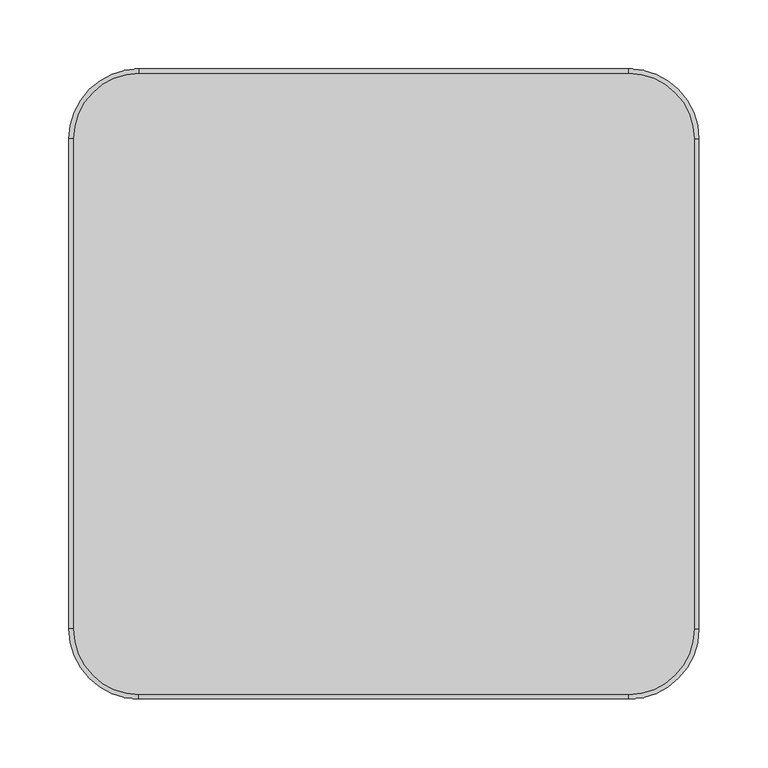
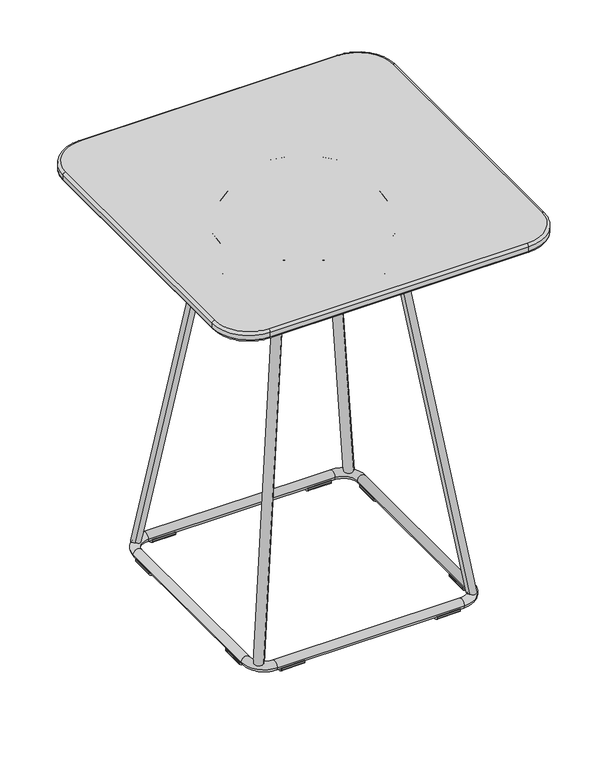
"""IFC4 building model written with IfcOpenShell, lengths in millimetres: furniture geometry, Stance_HC-Tully-Square_Table : TUTF181822-S."""

from ifc_helpers import new_model, si_unit, point, frame, frame_2d, origin, place, context, project, spatial, polyline, circle_curve, ellipse_curve, trimmed, segment, composite_curve, outline, extrude, source, transform, mapped, element, save
from ifc_brep_helpers import plane_surface, cylinder_surface, revolved_surface, extruded_surface, advanced_brep


def furniture_d069a90b(model_context):
    return source(origin(), model_context, "Body", "SolidModel", [
        advanced_brep(
        [(228.6, 177.8, 555.625), (177.8, 228.6, 555.625), (177.8, 225.425, 558.8), (225.425, 177.8, 558.8), (228.6, 177.8, 549.275), (177.8, 228.6, 549.275), (225.425, 177.8, 546.1), (177.8, 225.425, 546.1), (225.425, -177.8, 558.8), (228.6, -177.8, 555.625), (228.6, -177.8, 549.275), (225.425, -177.8, 546.1), (177.8, -225.425, 558.8), (177.8, -228.6, 555.625), (177.8, -228.6, 549.275), (177.8, -225.425, 546.1), (-177.8, -225.425, 558.8), (-177.8, -228.6, 555.625), (-177.8, -228.6, 549.275), (-177.8, -225.425, 546.1), (-225.425, -177.8, 558.8), (-228.6, -177.8, 555.625), (-228.6, -177.8, 549.275), (-225.425, -177.8, 546.1), (-225.425, 177.8, 558.8), (-228.6, 177.8, 555.625), (-228.6, 177.8, 549.275), (-225.425, 177.8, 546.1), (-177.8, 225.425, 558.8), (-177.8, 228.6, 555.625), (-177.8, 228.6, 549.275), (-177.8, 225.425, 546.1)],
        [
            (0, 1, circle_curve(frame((177.8, 177.8, 555.625), z_axis=(0.0, 0.0, 1.0), x_axis=(0.0, 1.0, 0.0)), 50.8)),
            (1, 2, circle_curve(frame((177.8, 225.425, 555.625), z_axis=(1.0, 0.0, 0.0), x_axis=(0.0, 1.0, 0.0)), 3.175)),
            (2, 3, circle_curve(frame((177.8, 177.8, 558.8), z_axis=(0.0, 0.0, -1.0), x_axis=(0.0, 1.0, 0.0)), 47.625)),
            (3, 0, circle_curve(frame((225.425, 177.8, 555.625), z_axis=(0.0, 1.0, 0.0), x_axis=(1.0, 0.0, 0.0)), 3.175)),
            (0, 4),
            (4, 5, circle_curve(frame((177.8, 177.8, 549.275), z_axis=(0.0, 0.0, 1.0), x_axis=(0.0, 1.0, 0.0)), 50.8)),
            (5, 1),
            (4, 6, circle_curve(frame((225.425, 177.8, 549.275), z_axis=(0.0, 1.0, 0.0), x_axis=(1.0, 0.0, 0.0)), 3.175)),
            (6, 7, circle_curve(frame((177.8, 177.8, 546.1), z_axis=(0.0, 0.0, 1.0), x_axis=(0.0, 1.0, 0.0)), 47.625)),
            (7, 5, circle_curve(frame((177.8, 225.425, 549.275), z_axis=(1.0, 0.0, 0.0), x_axis=(0.0, 1.0, 0.0)), 3.175)),
            (3, 8),
            (8, 9, circle_curve(frame((225.425, -177.8, 555.625), z_axis=(0.0, 1.0, 0.0), x_axis=(1.0, 0.0, 0.0)), 3.175)),
            (9, 0),
            (9, 10),
            (10, 4),
            (10, 11, circle_curve(frame((225.425, -177.8, 549.275), z_axis=(0.0, 1.0, 0.0), x_axis=(1.0, 0.0, 0.0)), 3.175)),
            (11, 6),
            (8, 12, circle_curve(frame((177.8, -177.8, 558.8), z_axis=(0.0, 0.0, -1.0), x_axis=(1.0, 0.0, 0.0)), 47.625)),
            (12, 13, circle_curve(frame((177.8, -225.425, 555.625), z_axis=(1.0, 0.0, 0.0), x_axis=(0.0, -1.0, 0.0)), 3.175)),
            (13, 9, circle_curve(frame((177.8, -177.8, 555.625), z_axis=(0.0, 0.0, 1.0), x_axis=(1.0, 0.0, 0.0)), 50.8)),
            (13, 14),
            (14, 10, circle_curve(frame((177.8, -177.8, 549.275), z_axis=(0.0, 0.0, 1.0), x_axis=(1.0, 0.0, 0.0)), 50.8)),
            (14, 15, circle_curve(frame((177.8, -225.425, 549.275), z_axis=(1.0, 0.0, 0.0), x_axis=(0.0, -1.0, 0.0)), 3.175)),
            (15, 11, circle_curve(frame((177.8, -177.8, 546.1), z_axis=(0.0, 0.0, 1.0), x_axis=(1.0, 0.0, 0.0)), 47.625)),
            (12, 16),
            (16, 17, circle_curve(frame((-177.8, -225.425, 555.625), z_axis=(1.0, 0.0, 0.0), x_axis=(0.0, -1.0, 0.0)), 3.175)),
            (17, 13),
            (17, 18),
            (18, 14),
            (18, 19, circle_curve(frame((-177.8, -225.425, 549.275), z_axis=(1.0, 0.0, 0.0), x_axis=(0.0, -1.0, 0.0)), 3.175)),
            (19, 15),
            (16, 20, circle_curve(frame((-177.8, -177.8, 558.8), z_axis=(0.0, 0.0, -1.0), x_axis=(0.0, -1.0, 0.0)), 47.625)),
            (20, 21, circle_curve(frame((-225.425, -177.8, 555.625), z_axis=(0.0, -1.0, 0.0), x_axis=(-1.0, 0.0, 0.0)), 3.175)),
            (21, 17, circle_curve(frame((-177.8, -177.8, 555.625), z_axis=(0.0, 0.0, 1.0), x_axis=(0.0, -1.0, 0.0)), 50.8)),
            (21, 22),
            (22, 18, circle_curve(frame((-177.8, -177.8, 549.275), z_axis=(0.0, 0.0, 1.0), x_axis=(0.0, -1.0, 0.0)), 50.8)),
            (22, 23, circle_curve(frame((-225.425, -177.8, 549.275), z_axis=(0.0, -1.0, 0.0), x_axis=(-1.0, 0.0, 0.0)), 3.175)),
            (23, 19, circle_curve(frame((-177.8, -177.8, 546.1), z_axis=(0.0, 0.0, 1.0), x_axis=(0.0, -1.0, 0.0)), 47.625)),
            (20, 24),
            (24, 25, circle_curve(frame((-225.425, 177.8, 555.625), z_axis=(0.0, -1.0, 0.0), x_axis=(-1.0, 0.0, 0.0)), 3.175)),
            (25, 21),
            (25, 26),
            (26, 22),
            (26, 27, circle_curve(frame((-225.425, 177.8, 549.275), z_axis=(0.0, -1.0, 0.0), x_axis=(-1.0, 0.0, 0.0)), 3.175)),
            (27, 23),
            (24, 28, circle_curve(frame((-177.8, 177.8, 558.8), z_axis=(0.0, 0.0, -1.0), x_axis=(-1.0, 0.0, 0.0)), 47.625)),
            (28, 29, circle_curve(frame((-177.8, 225.425, 555.625), z_axis=(-1.0, 0.0, 0.0), x_axis=(0.0, 1.0, 0.0)), 3.175)),
            (29, 25, circle_curve(frame((-177.8, 177.8, 555.625), z_axis=(0.0, 0.0, 1.0), x_axis=(-1.0, 0.0, 0.0)), 50.8)),
            (29, 30),
            (30, 26, circle_curve(frame((-177.8, 177.8, 549.275), z_axis=(0.0, 0.0, 1.0), x_axis=(-1.0, 0.0, 0.0)), 50.8)),
            (30, 31, circle_curve(frame((-177.8, 225.425, 549.275), z_axis=(-1.0, 0.0, 0.0), x_axis=(0.0, 1.0, 0.0)), 3.175)),
            (31, 27, circle_curve(frame((-177.8, 177.8, 546.1), z_axis=(0.0, 0.0, 1.0), x_axis=(-1.0, 0.0, 0.0)), 47.625)),
            (1, 29),
            (28, 2),
            (5, 30),
            (7, 31),
        ],
        [
            revolved_surface(trimmed(ellipse_curve(frame((177.8, 225.425, 555.625), z_axis=(-1.0, 0.0, 0.0), x_axis=(0.0, 1.0, 0.0)), 3.175, 3.175), [point((177.8, 225.425, 558.8))], [point((177.8, 228.6, 555.625))], True, "CARTESIAN"), (177.8, 177.8, 558.8), (0.0, 0.0, -1.0)),
            cylinder_surface(frame((177.8, 177.8, 558.8), z_axis=(0.0, 0.0, -1.0), x_axis=(0.0, 1.0, 0.0)), 50.8),
            revolved_surface(trimmed(ellipse_curve(frame((177.8, 225.425, 549.275), z_axis=(-1.0, 0.0, 0.0), x_axis=(0.0, 1.0, 0.0)), 3.175, 3.175), [point((177.8, 228.6, 549.275))], [point((177.8, 225.425, 546.1))], True, "CARTESIAN"), (177.8, 177.8, 558.8), (0.0, 0.0, -1.0)),
            cylinder_surface(frame((225.425, 177.8, 555.625), z_axis=(0.0, 1.0, 0.0), x_axis=(1.0, 0.0, 0.0)), 3.175),
            plane_surface(frame((228.6, 177.8, 555.625), z_axis=(1.0, 0.0, 0.0), x_axis=(0.0, -1.0, 0.0))),
            cylinder_surface(frame((225.425, 177.8, 549.275), z_axis=(0.0, 1.0, 0.0), x_axis=(1.0, 0.0, 0.0)), 3.175),
            revolved_surface(trimmed(ellipse_curve(frame((225.425, -177.8, 555.625), z_axis=(0.0, 1.0, 0.0), x_axis=(1.0, 0.0, 0.0)), 3.175, 3.175), [point((225.425, -177.8, 558.8))], [point((228.6, -177.8, 555.625))], True, "CARTESIAN"), (177.8, -177.8, 558.8), (0.0, 0.0, -1.0)),
            cylinder_surface(frame((177.8, -177.8, 558.8), z_axis=(0.0, 0.0, -1.0), x_axis=(1.0, 0.0, 0.0)), 50.8),
            revolved_surface(trimmed(ellipse_curve(frame((225.425, -177.8, 549.275), z_axis=(0.0, 1.0, 0.0), x_axis=(1.0, 0.0, 0.0)), 3.175, 3.175), [point((228.6, -177.8, 549.275))], [point((225.425, -177.8, 546.1))], True, "CARTESIAN"), (177.8, -177.8, 558.8), (0.0, 0.0, -1.0)),
            cylinder_surface(frame((177.8, -225.425, 555.625), z_axis=(1.0, 0.0, 0.0), x_axis=(0.0, -1.0, 0.0)), 3.175),
            plane_surface(frame((177.8, -228.6, 555.625), z_axis=(0.0, -1.0, 0.0), x_axis=(-1.0, 0.0, 0.0))),
            cylinder_surface(frame((177.8, -225.425, 549.275), z_axis=(1.0, 0.0, 0.0), x_axis=(0.0, -1.0, 0.0)), 3.175),
            revolved_surface(trimmed(ellipse_curve(frame((-177.8, -225.425, 555.625), z_axis=(1.0, 0.0, 0.0), x_axis=(0.0, -1.0, 0.0)), 3.175, 3.175), [point((-177.8, -225.425, 558.8))], [point((-177.8, -228.6, 555.625))], True, "CARTESIAN"), (-177.8, -177.8, 558.8), (0.0, 0.0, -1.0)),
            cylinder_surface(frame((-177.8, -177.8, 558.8), z_axis=(0.0, 0.0, -1.0), x_axis=(0.0, -1.0, 0.0)), 50.8),
            revolved_surface(trimmed(ellipse_curve(frame((-177.8, -225.425, 549.275), z_axis=(1.0, 0.0, 0.0), x_axis=(0.0, -1.0, 0.0)), 3.175, 3.175), [point((-177.8, -228.6, 549.275))], [point((-177.8, -225.425, 546.1))], True, "CARTESIAN"), (-177.8, -177.8, 558.8), (0.0, 0.0, -1.0)),
            cylinder_surface(frame((-225.425, -177.8, 555.625), z_axis=(0.0, -1.0, 0.0), x_axis=(-1.0, 0.0, 0.0)), 3.175),
            plane_surface(frame((-228.6, -177.8, 555.625), z_axis=(-1.0, 0.0, 0.0), x_axis=(0.0, 1.0, 0.0))),
            cylinder_surface(frame((-225.425, -177.8, 549.275), z_axis=(0.0, -1.0, 0.0), x_axis=(-1.0, 0.0, 0.0)), 3.175),
            revolved_surface(trimmed(ellipse_curve(frame((-225.425, 177.8, 555.625), z_axis=(0.0, -1.0, 0.0), x_axis=(-1.0, 0.0, 0.0)), 3.175, 3.175), [point((-225.425, 177.8, 558.8))], [point((-228.6, 177.8, 555.625))], True, "CARTESIAN"), (-177.8, 177.8, 558.8), (0.0, 0.0, -1.0)),
            cylinder_surface(frame((-177.8, 177.8, 558.8), z_axis=(0.0, 0.0, -1.0), x_axis=(-1.0, 0.0, 0.0)), 50.8),
            revolved_surface(trimmed(ellipse_curve(frame((-225.425, 177.8, 549.275), z_axis=(0.0, -1.0, 0.0), x_axis=(-1.0, 0.0, 0.0)), 3.175, 3.175), [point((-228.6, 177.8, 549.275))], [point((-225.425, 177.8, 546.1))], True, "CARTESIAN"), (-177.8, 177.8, 558.8), (0.0, 0.0, -1.0)),
            cylinder_surface(frame((-177.8, 225.425, 555.625), z_axis=(-1.0, 0.0, 0.0), x_axis=(0.0, 1.0, 0.0)), 3.175),
            plane_surface(frame((-177.8, 228.6, 555.625), z_axis=(0.0, 1.0, 0.0), x_axis=(1.0, 0.0, 0.0))),
            cylinder_surface(frame((-177.8, 225.425, 549.275), z_axis=(-1.0, 0.0, 0.0), x_axis=(0.0, 1.0, 0.0)), 3.175),
            plane_surface(frame((-177.8, 225.425, 546.1), z_axis=(0.0, 0.0, -1.0), x_axis=(1.0, 0.0, 0.0))),
            plane_surface(frame((-177.8, 223.913714, 558.8), z_axis=(0.0, 0.0, 1.0), x_axis=(1.0, 0.0, 0.0))),
        ],
        [
            (0, [[1, 2, 3, 4]]),
            (1, [[-1, 5, 6, 7]]),
            (2, [[-6, 8, 9, 10]]),
            (3, [[-4, 11, 12, 13]]),
            (4, [[-5, -13, 14, 15]]),
            (5, [[-8, -15, 16, 17]]),
            (6, [[-12, 18, 19, 20]]),
            (7, [[-14, -20, 21, 22]]),
            (8, [[-16, -22, 23, 24]]),
            (9, [[-19, 25, 26, 27]]),
            (10, [[-21, -27, 28, 29]]),
            (11, [[-23, -29, 30, 31]]),
            (12, [[-26, 32, 33, 34]]),
            (13, [[-28, -34, 35, 36]]),
            (14, [[-30, -36, 37, 38]]),
            (15, [[-33, 39, 40, 41]]),
            (16, [[-35, -41, 42, 43]]),
            (17, [[-37, -43, 44, 45]]),
            (18, [[-40, 46, 47, 48]]),
            (19, [[-42, -48, 49, 50]]),
            (20, [[-44, -50, 51, 52]]),
            (21, [[-2, 53, -47, 54]]),
            (22, [[-7, 55, -49, -53]]),
            (23, [[-10, 56, -51, -55]]),
            (24, [[-9, -17, -24, -31, -38, -45, -52, -56]]),
            (25, [[-3, -54, -46, -39, -32, -25, -18, -11]]),
        ],
    ),
        advanced_brep(
        [(-165.1, 0.0, 533.4), (165.1, 0.0, 533.4), (0.0, 0.0, 533.4), (-166.6753627, 0.0, 534.9753627), (166.6753627, 0.0, 534.9753627), (-166.6753627, 0.0, 546.1), (166.6753627, 0.0, 546.1), (0.0, 0.0, 546.1)],
        [
            (0, 1, circle_curve(frame((0.0, 0.0, 533.4), z_axis=(0.0, 0.0, -1.0), x_axis=(1.0, 0.0, 0.0)), 165.1)),
            (1, 2),
            (2, 0),
            (1, 0, circle_curve(frame((0.0, 0.0, 533.4), z_axis=(0.0, 0.0, -1.0), x_axis=(1.0, 0.0, 0.0)), 165.1)),
            (3, 4, circle_curve(frame((0.0, 0.0, 534.9753627), z_axis=(0.0, 0.0, -1.0), x_axis=(1.0, 0.0, 0.0)), 166.6753627)),
            (4, 1, circle_curve(frame((165.1, 0.0, 534.9753627), z_axis=(0.0, 1.0, 0.0), x_axis=(1.0, 0.0, 0.0)), 1.5753627)),
            (0, 3, circle_curve(frame((-165.1, 0.0, 534.9753627), z_axis=(0.0, 1.0, 0.0), x_axis=(-1.0, 0.0, 0.0)), 1.5753627)),
            (4, 3, circle_curve(frame((0.0, 0.0, 534.9753627), z_axis=(0.0, 0.0, -1.0), x_axis=(1.0, 0.0, 0.0)), 166.6753627)),
            (5, 6, circle_curve(frame((0.0, 0.0, 546.1), z_axis=(0.0, 0.0, -1.0), x_axis=(1.0, 0.0, 0.0)), 166.6753627)),
            (6, 4),
            (3, 5),
            (6, 5, circle_curve(frame((0.0, 0.0, 546.1), z_axis=(0.0, 0.0, -1.0), x_axis=(1.0, 0.0, 0.0)), 166.6753627)),
            (7, 6),
            (5, 7),
        ],
        [
            plane_surface(frame((0.0, 0.0, 533.4), z_axis=(0.0, 0.0, -1.0), x_axis=(1.0, 0.0, 0.0))),
            revolved_surface(trimmed(ellipse_curve(frame((165.1, 0.0, 534.9753627), z_axis=(0.0, -1.0, 0.0), x_axis=(1.0, 0.0, 0.0)), 1.5753627, 1.5753627), [point((165.1, 0.0, 533.4))], [point((166.6753627, 0.0, 534.9753627))], True, "CARTESIAN"), (0.0, 0.0, 564.2096052), (0.0, 0.0, 1.0)),
            cylinder_surface(frame((0.0, 0.0, 564.2096052), z_axis=(0.0, 0.0, 1.0), x_axis=(1.0, 0.0, 0.0)), 166.6753627),
            plane_surface(frame((0.0, 0.0, 546.1), z_axis=(0.0, 0.0, 1.0), x_axis=(1.0, 0.0, 0.0))),
        ],
        [
            (0, [[1, 2, 3]]),
            (0, [[4, -3, -2]]),
            (1, [[5, 6, -1, 7]]),
            (1, [[8, -7, -4, -6]]),
            (2, [[9, 10, -5, 11]]),
            (2, [[12, -11, -8, -10]]),
            (3, [[13, -9, 14]]),
            (3, [[-14, -12, -13]]),
        ],
    ),
        extrude(outline(composite_curve([segment(trimmed(circle_curve(frame_2d((-148.4350817, 5.3337234)), 0.3897203), [point((-148.7664819, 5.5387985))], [point((-148.0454207, 5.3269218))], False, "CARTESIAN"), True, "CONTINUOUS"), segment(polyline([(-148.0454207, 5.3269218), (-148.0841502, 3.1081125)]), True, "CONTINUOUS"), segment(trimmed(circle_curve(frame_2d((-149.6824444, 3.1360109)), 1.5985377), [point((-148.0841502, 3.1081125))], [point((-148.7010134, 1.8742201))], False, "CARTESIAN"), True, "CONTINUOUS"), segment(trimmed(circle_curve(frame_2d((-154.1650784, 8.8991729)), 8.8997735), [point((-148.7010134, 1.8742201))], [point((-159.6514035, 1.891591))], False, "CARTESIAN"), True, "CONTINUOUS"), segment(trimmed(circle_curve(frame_2d((-158.6952511, 3.1128668)), 1.5510454), [point((-159.6514035, 1.891591))], [point((-160.2460603, 3.0857973))], False, "CARTESIAN"), True, "CONTINUOUS"), segment(polyline([(-160.2460603, 3.0857973), (-160.2853602, 5.3372874)]), True, "CONTINUOUS"), segment(trimmed(circle_curve(frame_2d((-159.9029827, 5.3439618)), 0.3824358), [point((-160.2853602, 5.3372874))], [point((-159.5775522, 5.5448401))], False, "CARTESIAN"), True, "CONTINUOUS"), segment(trimmed(circle_curve(frame_2d((-154.1701501, 8.882664)), 6.3546098), [point((-159.5775522, 5.5448401))], [point((-148.7664819, 5.5387985))], True, "CARTESIAN"), True, "CONTINUOUS")], self_intersect=False)), frame((-123.2212496, 0.0, 0.0), z_axis=(1.0, 0.0, 0.0), x_axis=(0.0, 1.0, 0.0)), (0.0, 0.0, 1.0), 32.2202589),
        extrude(outline(composite_curve([segment(trimmed(circle_curve(frame_2d((-148.4350817, 5.3337234)), 0.3897203), [point((-148.7664819, 5.5387985))], [point((-148.0454207, 5.3269218))], False, "CARTESIAN"), True, "CONTINUOUS"), segment(polyline([(-148.0454207, 5.3269218), (-148.0841502, 3.1081125)]), True, "CONTINUOUS"), segment(trimmed(circle_curve(frame_2d((-149.6824444, 3.1360109)), 1.5985377), [point((-148.0841502, 3.1081125))], [point((-148.7010134, 1.8742201))], False, "CARTESIAN"), True, "CONTINUOUS"), segment(trimmed(circle_curve(frame_2d((-154.1650784, 8.8991729)), 8.8997735), [point((-148.7010134, 1.8742201))], [point((-159.6514035, 1.891591))], False, "CARTESIAN"), True, "CONTINUOUS"), segment(trimmed(circle_curve(frame_2d((-158.6952511, 3.1128668)), 1.5510454), [point((-159.6514035, 1.891591))], [point((-160.2460603, 3.0857973))], False, "CARTESIAN"), True, "CONTINUOUS"), segment(polyline([(-160.2460603, 3.0857973), (-160.2853602, 5.3372874)]), True, "CONTINUOUS"), segment(trimmed(circle_curve(frame_2d((-159.9029827, 5.3439618)), 0.3824358), [point((-160.2853602, 5.3372874))], [point((-159.5775522, 5.5448401))], False, "CARTESIAN"), True, "CONTINUOUS"), segment(trimmed(circle_curve(frame_2d((-154.1701501, 8.882664)), 6.3546098), [point((-159.5775522, 5.5448401))], [point((-148.7664819, 5.5387985))], True, "CARTESIAN"), True, "CONTINUOUS")], self_intersect=False)), frame((91.0531504, 0.0, 0.0), z_axis=(1.0, 0.0, 0.0), x_axis=(0.0, 1.0, 0.0)), (0.0, 0.0, 1.0), 32.2202589),
        extrude(outline(composite_curve([segment(trimmed(circle_curve(frame_2d((154.1701501, 8.882664)), 6.3546098), [point((148.7664819, 5.5387985))], [point((159.5775522, 5.5448401))], True, "CARTESIAN"), True, "CONTINUOUS"), segment(trimmed(circle_curve(frame_2d((159.9029827, 5.3439618)), 0.3824358), [point((159.5775522, 5.5448401))], [point((160.2853602, 5.3372874))], False, "CARTESIAN"), True, "CONTINUOUS"), segment(polyline([(160.2853602, 5.3372874), (160.2460603, 3.0857973)]), True, "CONTINUOUS"), segment(trimmed(circle_curve(frame_2d((158.6952511, 3.1128668)), 1.5510454), [point((160.2460603, 3.0857973))], [point((159.6514035, 1.891591))], False, "CARTESIAN"), True, "CONTINUOUS"), segment(trimmed(circle_curve(frame_2d((154.1650784, 8.8991729)), 8.8997735), [point((159.6514035, 1.891591))], [point((148.7010134, 1.8742201))], False, "CARTESIAN"), True, "CONTINUOUS"), segment(trimmed(circle_curve(frame_2d((149.6824444, 3.1360109)), 1.5985377), [point((148.7010134, 1.8742201))], [point((148.0841502, 3.1081125))], False, "CARTESIAN"), True, "CONTINUOUS"), segment(polyline([(148.0841502, 3.1081125), (148.0454207, 5.3269218)]), True, "CONTINUOUS"), segment(trimmed(circle_curve(frame_2d((148.4350817, 5.3337234)), 0.3897203), [point((148.0454207, 5.3269218))], [point((148.7664819, 5.5387985))], False, "CARTESIAN"), True, "CONTINUOUS")], self_intersect=False)), frame((-123.2212496, 0.0, 0.0), z_axis=(1.0, 0.0, 0.0), x_axis=(0.0, 1.0, 0.0)), (0.0, 0.0, 1.0), 32.2202589),
        extrude(outline(composite_curve([segment(trimmed(circle_curve(frame_2d((154.1701501, 8.882664)), 6.3546098), [point((148.7664819, 5.5387985))], [point((159.5775522, 5.5448401))], True, "CARTESIAN"), True, "CONTINUOUS"), segment(trimmed(circle_curve(frame_2d((159.9029827, 5.3439618)), 0.3824358), [point((159.5775522, 5.5448401))], [point((160.2853602, 5.3372874))], False, "CARTESIAN"), True, "CONTINUOUS"), segment(polyline([(160.2853602, 5.3372874), (160.2460603, 3.0857973)]), True, "CONTINUOUS"), segment(trimmed(circle_curve(frame_2d((158.6952511, 3.1128668)), 1.5510454), [point((160.2460603, 3.0857973))], [point((159.6514035, 1.891591))], False, "CARTESIAN"), True, "CONTINUOUS"), segment(trimmed(circle_curve(frame_2d((154.1650784, 8.8991729)), 8.8997735), [point((159.6514035, 1.891591))], [point((148.7010134, 1.8742201))], False, "CARTESIAN"), True, "CONTINUOUS"), segment(trimmed(circle_curve(frame_2d((149.6824444, 3.1360109)), 1.5985377), [point((148.7010134, 1.8742201))], [point((148.0841502, 3.1081125))], False, "CARTESIAN"), True, "CONTINUOUS"), segment(polyline([(148.0841502, 3.1081125), (148.0454207, 5.3269218)]), True, "CONTINUOUS"), segment(trimmed(circle_curve(frame_2d((148.4350817, 5.3337234)), 0.3897203), [point((148.0454207, 5.3269218))], [point((148.7664819, 5.5387985))], False, "CARTESIAN"), True, "CONTINUOUS")], self_intersect=False)), frame((91.0531504, 0.0, 0.0), z_axis=(1.0, 0.0, 0.0), x_axis=(0.0, 1.0, 0.0)), (0.0, 0.0, 1.0), 32.2202589),
        advanced_brep(
        [(81.5399756, 72.5694431, 523.8961578), (72.5597195, 81.5496992, 523.8961578), (151.0077383, 142.0372058, 13.6617424), (142.0274822, 151.0174619, 13.6617424)],
        [
            (0, 1, ellipse_curve(frame((77.0498475, 77.0595711, 523.8961578), z_axis=(0.0, 0.0, 1.0000000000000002), x_axis=(-0.7071067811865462, 0.7071067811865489, 0.0)), 6.35, 6.1981026)),
            (1, 0, ellipse_curve(frame((77.0498475, 77.0595711, 523.8961578), z_axis=(0.0, 0.0, 1.0000000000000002), x_axis=(-0.7071067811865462, 0.7071067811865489, 0.0)), 6.35, 6.1981026)),
            (2, 3, ellipse_curve(frame((146.5176102, 146.5273338, 13.6617424), z_axis=(0.0, 0.0, -1.0000000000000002), x_axis=(-0.7071067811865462, 0.7071067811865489, 0.0)), 6.35, 6.1981026)),
            (3, 2, ellipse_curve(frame((146.5176102, 146.5273338, 13.6617424), z_axis=(0.0, 0.0, -1.0000000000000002), x_axis=(-0.7071067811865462, 0.7071067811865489, 0.0)), 6.35, 6.1981026)),
            (3, 1),
            (0, 2),
        ],
        [
            plane_surface(frame((77.0498475, 77.0595711, 523.8961578), z_axis=(0.0, 0.0, 1.0), x_axis=(0.7071067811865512, 0.7071067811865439, 0.0))),
            plane_surface(frame((146.5176102, 146.5273338, 13.6617424), z_axis=(0.0, 0.0, -1.0), x_axis=(0.7071067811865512, 0.7071067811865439, 0.0))),
            extruded_surface(trimmed(ellipse_curve(frame((146.5176102, 146.5273338, 13.6617424), z_axis=(0.0, 0.0, 1.0000000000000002), x_axis=(-0.7071067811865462, 0.7071067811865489, 0.0)), 6.35, 6.1981026), [point((151.0077383, 142.0372058, 13.6617424))], [point((142.0274822, 151.0174619, 13.6617424))], True, "CARTESIAN"), (-69.46776270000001, -69.46776270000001, 510.2344154), 519.6062920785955),
            extruded_surface(trimmed(ellipse_curve(frame((146.5176102, 146.5273338, 13.6617424), z_axis=(0.0, 0.0, 1.0000000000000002), x_axis=(-0.7071067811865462, 0.7071067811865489, 0.0)), 6.35, 6.1981026), [point((142.0274822, 151.0174619, 13.6617424))], [point((151.0077383, 142.0372058, 13.6617424))], True, "CARTESIAN"), (-69.46776270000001, -69.46776270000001, 510.2344154), 519.6062920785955),
        ],
        [
            (0, [[1, 2]]),
            (1, [[3, 4]]),
            (2, [[-4, 5, -1, 6]]),
            (3, [[-3, -6, -2, -5]]),
        ],
    ),
        advanced_brep(
        [(-81.5399756, 72.5694431, 523.8961578), (-72.5597195, 81.5496992, 523.8961578), (-151.0077383, 142.0372058, 13.6617424), (-142.0274822, 151.0174619, 13.6617424)],
        [
            (0, 1, ellipse_curve(frame((-77.0498475, 77.0595711, 523.8961578), z_axis=(0.0, 0.0, 1.0000000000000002), x_axis=(0.7071067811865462, 0.7071067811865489, 0.0)), 6.35, 6.1981026)),
            (1, 0, ellipse_curve(frame((-77.0498475, 77.0595711, 523.8961578), z_axis=(0.0, 0.0, 1.0000000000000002), x_axis=(0.7071067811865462, 0.7071067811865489, 0.0)), 6.35, 6.1981026)),
            (2, 3, ellipse_curve(frame((-146.5176102, 146.5273338, 13.6617424), z_axis=(0.0, 0.0, -1.0000000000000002), x_axis=(0.7071067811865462, 0.7071067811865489, 0.0)), 6.35, 6.1981026)),
            (3, 2, ellipse_curve(frame((-146.5176102, 146.5273338, 13.6617424), z_axis=(0.0, 0.0, -1.0000000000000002), x_axis=(0.7071067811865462, 0.7071067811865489, 0.0)), 6.35, 6.1981026)),
            (2, 0),
            (1, 3),
        ],
        [
            plane_surface(frame((-77.0498475, 77.0595711, 523.8961578), z_axis=(0.0, 0.0, 1.0), x_axis=(0.7071067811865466, -0.7071067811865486, 0.0))),
            plane_surface(frame((-146.5176102, 146.5273338, 13.6617424), z_axis=(0.0, 0.0, -1.0), x_axis=(0.7071067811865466, -0.7071067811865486, 0.0))),
            extruded_surface(trimmed(ellipse_curve(frame((-146.5176102, 146.5273338, 13.6617424), z_axis=(0.0, 0.0, 1.0000000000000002), x_axis=(0.7071067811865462, 0.7071067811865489, 0.0)), 6.35, 6.1981026), [point((-142.0274822, 151.0174619, 13.6617424))], [point((-151.0077383, 142.0372058, 13.6617424))], True, "CARTESIAN"), (69.46776270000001, -69.46776270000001, 510.2344154), 519.6062920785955),
            extruded_surface(trimmed(ellipse_curve(frame((-146.5176102, 146.5273338, 13.6617424), z_axis=(0.0, 0.0, 1.0000000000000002), x_axis=(0.7071067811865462, 0.7071067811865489, 0.0)), 6.35, 6.1981026), [point((-151.0077383, 142.0372058, 13.6617424))], [point((-142.0274822, 151.0174619, 13.6617424))], True, "CARTESIAN"), (69.46776270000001, -69.46776270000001, 510.2344154), 519.6062920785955),
        ],
        [
            (0, [[1, 2]]),
            (1, [[3, 4]]),
            (2, [[-3, 5, -2, 6]]),
            (3, [[-4, -6, -1, -5]]),
        ],
    ),
        advanced_brep(
        [(81.5399756, -72.5694431, 523.8961578), (72.5597195, -81.5496992, 523.8961578), (151.0077383, -142.0372058, 13.6617424), (142.0274822, -151.0174619, 13.6617424)],
        [
            (0, 1, ellipse_curve(frame((77.0498475, -77.0595711, 523.8961578), z_axis=(0.0, 0.0, 1.0000000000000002), x_axis=(-0.7071067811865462, -0.7071067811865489, 0.0)), 6.35, 6.1981026)),
            (1, 0, ellipse_curve(frame((77.0498475, -77.0595711, 523.8961578), z_axis=(0.0, 0.0, 1.0000000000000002), x_axis=(-0.7071067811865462, -0.7071067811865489, 0.0)), 6.35, 6.1981026)),
            (2, 3, ellipse_curve(frame((146.5176102, -146.5273338, 13.6617424), z_axis=(0.0, 0.0, -1.0000000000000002), x_axis=(-0.7071067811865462, -0.7071067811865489, 0.0)), 6.35, 6.1981026)),
            (3, 2, ellipse_curve(frame((146.5176102, -146.5273338, 13.6617424), z_axis=(0.0, 0.0, -1.0000000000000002), x_axis=(-0.7071067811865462, -0.7071067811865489, 0.0)), 6.35, 6.1981026)),
            (2, 0),
            (1, 3),
        ],
        [
            plane_surface(frame((77.0498475, -77.0595711, 523.8961578), z_axis=(0.0, 0.0, 1.0), x_axis=(-0.7071067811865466, 0.7071067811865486, 0.0))),
            plane_surface(frame((146.5176102, -146.5273338, 13.6617424), z_axis=(0.0, 0.0, -1.0), x_axis=(-0.7071067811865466, 0.7071067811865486, 0.0))),
            extruded_surface(trimmed(ellipse_curve(frame((146.5176102, -146.5273338, 13.6617424), z_axis=(0.0, 0.0, 1.0000000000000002), x_axis=(-0.7071067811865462, -0.7071067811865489, 0.0)), 6.35, 6.1981026), [point((142.0274822, -151.0174619, 13.6617424))], [point((151.0077383, -142.0372058, 13.6617424))], True, "CARTESIAN"), (-69.46776270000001, 69.46776270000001, 510.2344154), 519.6062920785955),
            extruded_surface(trimmed(ellipse_curve(frame((146.5176102, -146.5273338, 13.6617424), z_axis=(0.0, 0.0, 1.0000000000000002), x_axis=(-0.7071067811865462, -0.7071067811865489, 0.0)), 6.35, 6.1981026), [point((151.0077383, -142.0372058, 13.6617424))], [point((142.0274822, -151.0174619, 13.6617424))], True, "CARTESIAN"), (-69.46776270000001, 69.46776270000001, 510.2344154), 519.6062920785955),
        ],
        [
            (0, [[1, 2]]),
            (1, [[3, 4]]),
            (2, [[-3, 5, -2, 6]]),
            (3, [[-4, -6, -1, -5]]),
        ],
    ),
        advanced_brep(
        [(-81.5399756, -72.5694431, 523.8961578), (-72.5597195, -81.5496992, 523.8961578), (-151.0077383, -142.0372058, 13.6617424), (-142.0274822, -151.0174619, 13.6617424)],
        [
            (0, 1, ellipse_curve(frame((-77.0498475, -77.0595711, 523.8961578), z_axis=(0.0, 0.0, 1.0000000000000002), x_axis=(0.7071067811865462, -0.7071067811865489, 0.0)), 6.35, 6.1981026)),
            (1, 0, ellipse_curve(frame((-77.0498475, -77.0595711, 523.8961578), z_axis=(0.0, 0.0, 1.0000000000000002), x_axis=(0.7071067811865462, -0.7071067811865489, 0.0)), 6.35, 6.1981026)),
            (2, 3, ellipse_curve(frame((-146.5176102, -146.5273338, 13.6617424), z_axis=(0.0, 0.0, -1.0000000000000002), x_axis=(0.7071067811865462, -0.7071067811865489, 0.0)), 6.35, 6.1981026)),
            (3, 2, ellipse_curve(frame((-146.5176102, -146.5273338, 13.6617424), z_axis=(0.0, 0.0, -1.0000000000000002), x_axis=(0.7071067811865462, -0.7071067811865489, 0.0)), 6.35, 6.1981026)),
            (3, 1),
            (0, 2),
        ],
        [
            plane_surface(frame((-77.0498475, -77.0595711, 523.8961578), z_axis=(0.0, 0.0, 1.0), x_axis=(-0.7071067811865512, -0.7071067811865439, 0.0))),
            plane_surface(frame((-146.5176102, -146.5273338, 13.6617424), z_axis=(0.0, 0.0, -1.0), x_axis=(-0.7071067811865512, -0.7071067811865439, 0.0))),
            extruded_surface(trimmed(ellipse_curve(frame((-146.5176102, -146.5273338, 13.6617424), z_axis=(0.0, 0.0, 1.0000000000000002), x_axis=(0.7071067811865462, -0.7071067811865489, 0.0)), 6.35, 6.1981026), [point((-151.0077383, -142.0372058, 13.6617424))], [point((-142.0274822, -151.0174619, 13.6617424))], True, "CARTESIAN"), (69.46776270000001, 69.46776270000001, 510.2344154), 519.6062920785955),
            extruded_surface(trimmed(ellipse_curve(frame((-146.5176102, -146.5273338, 13.6617424), z_axis=(0.0, 0.0, 1.0000000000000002), x_axis=(0.7071067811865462, -0.7071067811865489, 0.0)), 6.35, 6.1981026), [point((-142.0274822, -151.0174619, 13.6617424))], [point((-151.0077383, -142.0372058, 13.6617424))], True, "CARTESIAN"), (69.46776270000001, 69.46776270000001, 510.2344154), 519.6062920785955),
        ],
        [
            (0, [[1, 2]]),
            (1, [[3, 4]]),
            (2, [[-4, 5, -1, 6]]),
            (3, [[-3, -6, -2, -5]]),
        ],
    ),
        extrude(outline(composite_curve([segment(trimmed(circle_curve(frame_2d((-82.55, 0.0)), 9.525), [point((-82.55, 9.525))], [point((-82.55, -9.525))], False, "CARTESIAN"), True, "CONTINUOUS"), segment(polyline([(-82.55, -9.525), (-104.775, -9.525), (-104.775, 9.525), (-82.55, 9.525)]), True, "CONTINUOUS")], self_intersect=False)), frame((0.0, 0.0, 530.225), z_axis=(0.0, 0.0, 1.0), x_axis=(1.0, 0.0, 0.0)), (0.0, 0.0, 1.0), 3.175),
        extrude(outline(composite_curve([segment(polyline([(9.525, 104.775), (9.525, 82.55)]), True, "CONTINUOUS"), segment(trimmed(circle_curve(frame_2d((0.0, 82.55)), 9.525), [point((9.525, 82.55))], [point((-9.525, 82.55))], False, "CARTESIAN"), True, "CONTINUOUS"), segment(polyline([(-9.525, 82.55), (-9.525, 104.775), (9.525, 104.775)]), True, "CONTINUOUS")], self_intersect=False)), frame((0.0, 0.0, 530.225), z_axis=(0.0, 0.0, 1.0), x_axis=(1.0, 0.0, 0.0)), (0.0, 0.0, 1.0), 3.175),
        extrude(outline(composite_curve([segment(polyline([(104.775, 9.525), (104.775, -9.525), (82.55, -9.525)]), True, "CONTINUOUS"), segment(trimmed(circle_curve(frame_2d((82.55, 0.0)), 9.525), [point((82.55, -9.525))], [point((82.55, 9.525))], False, "CARTESIAN"), True, "CONTINUOUS"), segment(polyline([(82.55, 9.525), (104.775, 9.525)]), True, "CONTINUOUS")], self_intersect=False)), frame((0.0, 0.0, 530.225), z_axis=(0.0, 0.0, 1.0), x_axis=(1.0, 0.0, 0.0)), (0.0, 0.0, 1.0), 3.175),
        extrude(outline(composite_curve([segment(polyline([(9.525, -104.775), (-9.525, -104.775), (-9.525, -82.55)]), True, "CONTINUOUS"), segment(trimmed(circle_curve(frame_2d((0.0, -82.55)), 9.525), [point((-9.525, -82.55))], [point((9.525, -82.55))], False, "CARTESIAN"), True, "CONTINUOUS"), segment(polyline([(9.525, -82.55), (9.525, -104.775)]), True, "CONTINUOUS")], self_intersect=False)), frame((0.0, 0.0, 530.225), z_axis=(0.0, 0.0, 1.0), x_axis=(1.0, 0.0, 0.0)), (0.0, 0.0, 1.0), 3.175),
        advanced_brep(
        [(103.1973977, 0.0, 527.05), (-103.1973977, 0.0, 527.05), (-115.8973977, 0.0, 527.05), (115.8973977, 0.0, 527.05)],
        [
            (0, 1, circle_curve(frame((0.0, 0.0, 527.05), z_axis=(0.0, 0.0, -1.0), x_axis=(-1.0, 0.0, 0.0)), 103.1973977)),
            (1, 2, circle_curve(frame((-109.5473977, 0.0, 527.05), z_axis=(0.0, -1.0, 0.0), x_axis=(1.0, 0.0, 0.0)), 6.35)),
            (2, 3, circle_curve(frame((0.0, 0.0, 527.05), z_axis=(0.0, 0.0, 1.0), x_axis=(-1.0, 0.0, 0.0)), 115.8973977)),
            (3, 0, circle_curve(frame((109.5473977, 0.0, 527.05), z_axis=(0.0, -1.0, 0.0), x_axis=(-1.0, 0.0, 0.0)), 6.35)),
            (2, 1, circle_curve(frame((-109.5473977, 0.0, 527.05), z_axis=(0.0, -1.0, 0.0), x_axis=(1.0, 0.0, 0.0)), 6.35)),
            (0, 3, circle_curve(frame((109.5473977, 0.0, 527.05), z_axis=(0.0, -1.0, 0.0), x_axis=(-1.0, 0.0, 0.0)), 6.35)),
            (1, 0, circle_curve(frame((0.0, 0.0, 527.05), z_axis=(0.0, 0.0, -1.0), x_axis=(1.0, 0.0, 0.0)), 103.1973977)),
            (3, 2, circle_curve(frame((0.0, 0.0, 527.05), z_axis=(0.0, 0.0, 1.0), x_axis=(1.0, 0.0, 0.0)), 115.8973977)),
        ],
        [
            revolved_surface(trimmed(ellipse_curve(frame((-109.5473977, 0.0, 527.05), z_axis=(0.0, 1.0, 0.0), x_axis=(1.0, 0.0, 0.0)), 6.35, 6.35), [point((-115.8973977, 0.0, 527.05))], [point((-103.1973977, 0.0, 527.05))], True, "CARTESIAN"), (0.0, 0.0, 0.0), (0.0, 0.0, 1.0)),
            revolved_surface(trimmed(ellipse_curve(frame((-109.5473977, 0.0, 527.05), z_axis=(0.0, 1.0, 0.0), x_axis=(1.0, 0.0, 0.0)), 6.35, 6.35), [point((-103.1973977, 0.0, 527.05))], [point((-115.8973977, 0.0, 527.05))], True, "CARTESIAN"), (0.0, 0.0, 0.0), (0.0, 0.0, 1.0)),
            revolved_surface(trimmed(ellipse_curve(frame((109.5473977, 0.0, 527.05), z_axis=(0.0, -1.0, 0.0), x_axis=(-1.0, 0.0, 0.0)), 6.35, 6.35), [point((115.8973977, 0.0, 527.05))], [point((103.1973977, 0.0, 527.05))], True, "CARTESIAN"), (0.0, 0.0, 0.0), (0.0, 0.0, 1.0)),
            revolved_surface(trimmed(ellipse_curve(frame((109.5473977, 0.0, 527.05), z_axis=(0.0, -1.0, 0.0), x_axis=(-1.0, 0.0, 0.0)), 6.35, 6.35), [point((103.1973977, 0.0, 527.05))], [point((115.8973977, 0.0, 527.05))], True, "CARTESIAN"), (0.0, 0.0, 0.0), (0.0, 0.0, 1.0)),
        ],
        [
            (0, [[1, 2, 3, 4]]),
            (1, [[-3, 5, -1, 6]]),
            (2, [[7, -4, 8, -2]]),
            (3, [[-8, -6, -7, -5]]),
        ],
    ),
        extrude(outline(composite_curve([segment(trimmed(circle_curve(frame_2d((5.3337234, 148.4350817)), 0.3897203), [point((5.5387985, 148.7664819))], [point((5.3269218, 148.0454207))], False, "CARTESIAN"), True, "CONTINUOUS"), segment(polyline([(5.3269218, 148.0454207), (3.1081125, 148.0841502)]), True, "CONTINUOUS"), segment(trimmed(circle_curve(frame_2d((3.1360109, 149.6824444)), 1.5985377), [point((3.1081125, 148.0841502))], [point((1.8742201, 148.7010134))], False, "CARTESIAN"), True, "CONTINUOUS"), segment(trimmed(circle_curve(frame_2d((8.8991729, 154.1650784)), 8.8997735), [point((1.8742201, 148.7010134))], [point((1.891591, 159.6514035))], False, "CARTESIAN"), True, "CONTINUOUS"), segment(trimmed(circle_curve(frame_2d((3.1128668, 158.6952511)), 1.5510454), [point((1.891591, 159.6514035))], [point((3.0857973, 160.2460603))], False, "CARTESIAN"), True, "CONTINUOUS"), segment(polyline([(3.0857973, 160.2460603), (5.3372874, 160.2853602)]), True, "CONTINUOUS"), segment(trimmed(circle_curve(frame_2d((5.3439618, 159.9029827)), 0.3824358), [point((5.3372874, 160.2853602))], [point((5.5448401, 159.5775522))], False, "CARTESIAN"), True, "CONTINUOUS"), segment(trimmed(circle_curve(frame_2d((8.882664, 154.1701501)), 6.3546098), [point((5.5448401, 159.5775522))], [point((5.5387985, 148.7664819))], True, "CARTESIAN"), True, "CONTINUOUS")], self_intersect=False)), frame((0.0, -123.2212496, 0.0), z_axis=(0.0, 1.0, 0.0), x_axis=(0.0, 0.0, 1.0)), (0.0, 0.0, 1.0), 32.2202589),
        extrude(outline(composite_curve([segment(trimmed(circle_curve(frame_2d((5.3337234, 148.4350817)), 0.3897203), [point((5.5387985, 148.7664819))], [point((5.3269218, 148.0454207))], False, "CARTESIAN"), True, "CONTINUOUS"), segment(polyline([(5.3269218, 148.0454207), (3.1081125, 148.0841502)]), True, "CONTINUOUS"), segment(trimmed(circle_curve(frame_2d((3.1360109, 149.6824444)), 1.5985377), [point((3.1081125, 148.0841502))], [point((1.8742201, 148.7010134))], False, "CARTESIAN"), True, "CONTINUOUS"), segment(trimmed(circle_curve(frame_2d((8.8991729, 154.1650784)), 8.8997735), [point((1.8742201, 148.7010134))], [point((1.891591, 159.6514035))], False, "CARTESIAN"), True, "CONTINUOUS"), segment(trimmed(circle_curve(frame_2d((3.1128668, 158.6952511)), 1.5510454), [point((1.891591, 159.6514035))], [point((3.0857973, 160.2460603))], False, "CARTESIAN"), True, "CONTINUOUS"), segment(polyline([(3.0857973, 160.2460603), (5.3372874, 160.2853602)]), True, "CONTINUOUS"), segment(trimmed(circle_curve(frame_2d((5.3439618, 159.9029827)), 0.3824358), [point((5.3372874, 160.2853602))], [point((5.5448401, 159.5775522))], False, "CARTESIAN"), True, "CONTINUOUS"), segment(trimmed(circle_curve(frame_2d((8.882664, 154.1701501)), 6.3546098), [point((5.5448401, 159.5775522))], [point((5.5387985, 148.7664819))], True, "CARTESIAN"), True, "CONTINUOUS")], self_intersect=False)), frame((0.0, 91.0531504, 0.0), z_axis=(0.0, 1.0, 0.0), x_axis=(0.0, 0.0, 1.0)), (0.0, 0.0, 1.0), 32.2202589),
        extrude(outline(composite_curve([segment(trimmed(circle_curve(frame_2d((8.882664, -154.1701501)), 6.3546098), [point((5.5387985, -148.7664819))], [point((5.5448401, -159.5775522))], True, "CARTESIAN"), True, "CONTINUOUS"), segment(trimmed(circle_curve(frame_2d((5.3439618, -159.9029827)), 0.3824358), [point((5.5448401, -159.5775522))], [point((5.3372874, -160.2853602))], False, "CARTESIAN"), True, "CONTINUOUS"), segment(polyline([(5.3372874, -160.2853602), (3.0857973, -160.2460603)]), True, "CONTINUOUS"), segment(trimmed(circle_curve(frame_2d((3.1128668, -158.6952511)), 1.5510454), [point((3.0857973, -160.2460603))], [point((1.891591, -159.6514035))], False, "CARTESIAN"), True, "CONTINUOUS"), segment(trimmed(circle_curve(frame_2d((8.8991729, -154.1650784)), 8.8997735), [point((1.891591, -159.6514035))], [point((1.8742201, -148.7010134))], False, "CARTESIAN"), True, "CONTINUOUS"), segment(trimmed(circle_curve(frame_2d((3.1360109, -149.6824444)), 1.5985377), [point((1.8742201, -148.7010134))], [point((3.1081125, -148.0841502))], False, "CARTESIAN"), True, "CONTINUOUS"), segment(polyline([(3.1081125, -148.0841502), (5.3269218, -148.0454207)]), True, "CONTINUOUS"), segment(trimmed(circle_curve(frame_2d((5.3337234, -148.4350817)), 0.3897203), [point((5.3269218, -148.0454207))], [point((5.5387985, -148.7664819))], False, "CARTESIAN"), True, "CONTINUOUS")], self_intersect=False)), frame((0.0, -123.2212496, 0.0), z_axis=(0.0, 1.0, 0.0), x_axis=(0.0, 0.0, 1.0)), (0.0, 0.0, 1.0), 32.2202589),
        extrude(outline(composite_curve([segment(trimmed(circle_curve(frame_2d((8.882664, -154.1701501)), 6.3546098), [point((5.5387985, -148.7664819))], [point((5.5448401, -159.5775522))], True, "CARTESIAN"), True, "CONTINUOUS"), segment(trimmed(circle_curve(frame_2d((5.3439618, -159.9029827)), 0.3824358), [point((5.5448401, -159.5775522))], [point((5.3372874, -160.2853602))], False, "CARTESIAN"), True, "CONTINUOUS"), segment(polyline([(5.3372874, -160.2853602), (3.0857973, -160.2460603)]), True, "CONTINUOUS"), segment(trimmed(circle_curve(frame_2d((3.1128668, -158.6952511)), 1.5510454), [point((3.0857973, -160.2460603))], [point((1.891591, -159.6514035))], False, "CARTESIAN"), True, "CONTINUOUS"), segment(trimmed(circle_curve(frame_2d((8.8991729, -154.1650784)), 8.8997735), [point((1.891591, -159.6514035))], [point((1.8742201, -148.7010134))], False, "CARTESIAN"), True, "CONTINUOUS"), segment(trimmed(circle_curve(frame_2d((3.1360109, -149.6824444)), 1.5985377), [point((1.8742201, -148.7010134))], [point((3.1081125, -148.0841502))], False, "CARTESIAN"), True, "CONTINUOUS"), segment(polyline([(3.1081125, -148.0841502), (5.3269218, -148.0454207)]), True, "CONTINUOUS"), segment(trimmed(circle_curve(frame_2d((5.3337234, -148.4350817)), 0.3897203), [point((5.3269218, -148.0454207))], [point((5.5387985, -148.7664819))], False, "CARTESIAN"), True, "CONTINUOUS")], self_intersect=False)), frame((0.0, 91.0531504, 0.0), z_axis=(0.0, 1.0, 0.0), x_axis=(0.0, 0.0, 1.0)), (0.0, 0.0, 1.0), 32.2202589),
        advanced_brep(
        [(160.51531, 128.7802999, 8.8793349), (128.76531, 160.5302999, 8.8793349), (128.76531, 147.8302999, 8.8793349), (147.81531, 128.7802999, 8.8793349), (147.81531, -128.7652923, 8.8793349), (160.51531, -128.7652923, 8.8793349), (128.76531, -160.5152923, 8.8793349), (128.76531, -147.8152923, 8.8793349), (-128.7438636, -147.8152923, 8.8793349), (-128.7438636, -160.5152923, 8.8793349), (-160.4938636, -128.7652923, 8.8793349), (-147.7938636, -128.7652923, 8.8793349), (-147.7938636, 128.7802999, 8.8793349), (-160.4938636, 128.7802999, 8.8793349), (-128.7438636, 160.5302999, 8.8793349), (-128.7438636, 147.8302999, 8.8793349)],
        [
            (0, 1, circle_curve(frame((128.76531, 128.7802999, 8.8793349), z_axis=(0.0, 0.0, 1.0), x_axis=(0.0, 1.0, 0.0)), 31.75)),
            (1, 2, circle_curve(frame((128.76531, 154.1802999, 8.8793349), z_axis=(1.0, 0.0, 0.0), x_axis=(0.0, 1.0, 0.0)), 6.35)),
            (2, 3, circle_curve(frame((128.76531, 128.7802999, 8.8793349), z_axis=(0.0, 0.0, -1.0), x_axis=(0.0, 1.0, 0.0)), 19.05)),
            (3, 0, circle_curve(frame((154.16531, 128.7802999, 8.8793349), z_axis=(0.0, 1.0, 0.0), x_axis=(1.0, 0.0, 0.0)), 6.35)),
            (2, 1, circle_curve(frame((128.76531, 154.1802999, 8.8793349), z_axis=(1.0, 0.0, 0.0), x_axis=(0.0, 1.0, 0.0)), 6.35)),
            (0, 3, circle_curve(frame((154.16531, 128.7802999, 8.8793349), z_axis=(0.0, 1.0, 0.0), x_axis=(1.0, 0.0, 0.0)), 6.35)),
            (3, 4),
            (4, 5, circle_curve(frame((154.16531, -128.7652923, 8.8793349), z_axis=(0.0, 1.0, 0.0), x_axis=(1.0, 0.0, 0.0)), 6.35)),
            (5, 0),
            (5, 4, circle_curve(frame((154.16531, -128.7652923, 8.8793349), z_axis=(0.0, 1.0, 0.0), x_axis=(1.0, 0.0, 0.0)), 6.35)),
            (6, 5, circle_curve(frame((128.76531, -128.7652923, 8.8793349), z_axis=(0.0, 0.0, 1.0), x_axis=(1.0, 0.0, 0.0)), 31.75)),
            (4, 7, circle_curve(frame((128.76531, -128.7652923, 8.8793349), z_axis=(0.0, 0.0, -1.0), x_axis=(1.0, 0.0, 0.0)), 19.05)),
            (7, 6, circle_curve(frame((128.76531, -154.1652923, 8.8793349), z_axis=(1.0, 0.0, 0.0), x_axis=(0.0, -1.0, 0.0)), 6.35)),
            (6, 7, circle_curve(frame((128.76531, -154.1652923, 8.8793349), z_axis=(1.0, 0.0, 0.0), x_axis=(0.0, -1.0, 0.0)), 6.35)),
            (7, 8),
            (8, 9, circle_curve(frame((-128.7438636, -154.1652923, 8.8793349), z_axis=(1.0, 0.0, 0.0), x_axis=(0.0, -1.0, 0.0)), 6.35)),
            (9, 6),
            (9, 8, circle_curve(frame((-128.7438636, -154.1652923, 8.8793349), z_axis=(1.0, 0.0, 0.0), x_axis=(0.0, -1.0, 0.0)), 6.35)),
            (10, 9, circle_curve(frame((-128.7438636, -128.7652923, 8.8793349), z_axis=(0.0, 0.0, 1.0), x_axis=(0.0, -1.0, 0.0)), 31.75)),
            (8, 11, circle_curve(frame((-128.7438636, -128.7652923, 8.8793349), z_axis=(0.0, 0.0, -1.0), x_axis=(0.0, -1.0, 0.0)), 19.05)),
            (11, 10, circle_curve(frame((-154.1438636, -128.7652923, 8.8793349), z_axis=(0.0, -1.0, 0.0), x_axis=(-1.0, 0.0, 0.0)), 6.35)),
            (10, 11, circle_curve(frame((-154.1438636, -128.7652923, 8.8793349), z_axis=(0.0, -1.0, 0.0), x_axis=(-1.0, 0.0, 0.0)), 6.35)),
            (11, 12),
            (12, 13, circle_curve(frame((-154.1438636, 128.7802999, 8.8793349), z_axis=(0.0, -1.0, 0.0), x_axis=(-1.0, 0.0, 0.0)), 6.35)),
            (13, 10),
            (13, 12, circle_curve(frame((-154.1438636, 128.7802999, 8.8793349), z_axis=(0.0, -1.0, 0.0), x_axis=(-1.0, 0.0, 0.0)), 6.35)),
            (14, 13, circle_curve(frame((-128.7438636, 128.7802999, 8.8793349), z_axis=(0.0, 0.0, 1.0), x_axis=(-1.0, 0.0, 0.0)), 31.75)),
            (12, 15, circle_curve(frame((-128.7438636, 128.7802999, 8.8793349), z_axis=(0.0, 0.0, -1.0), x_axis=(-1.0, 0.0, 0.0)), 19.05)),
            (15, 14, circle_curve(frame((-128.7438636, 154.1802999, 8.8793349), z_axis=(-1.0, 0.0, 0.0), x_axis=(0.0, 1.0, 0.0)), 6.35)),
            (14, 15, circle_curve(frame((-128.7438636, 154.1802999, 8.8793349), z_axis=(-1.0, 0.0, 0.0), x_axis=(0.0, 1.0, 0.0)), 6.35)),
            (15, 2),
            (1, 14),
        ],
        [
            revolved_surface(trimmed(ellipse_curve(frame((128.76531, 154.1802999, 8.8793349), z_axis=(-1.0, 0.0, 0.0), x_axis=(0.0, 1.0, 0.0)), 6.35, 6.35), [point((128.76531, 147.8302999, 8.8793349))], [point((128.76531, 160.5302999, 8.8793349))], True, "CARTESIAN"), (128.76531, 128.7802999, 0.0), (0.0, 0.0, -1.0)),
            revolved_surface(trimmed(ellipse_curve(frame((128.76531, 154.1802999, 8.8793349), z_axis=(-1.0, 0.0, 0.0), x_axis=(0.0, 1.0, 0.0)), 6.35, 6.35), [point((128.76531, 160.5302999, 8.8793349))], [point((128.76531, 147.8302999, 8.8793349))], True, "CARTESIAN"), (128.76531, 128.7802999, 0.0), (0.0, 0.0, -1.0)),
            cylinder_surface(frame((154.16531, 128.7802999, 8.8793349), z_axis=(0.0, 1.0, 0.0), x_axis=(1.0, 0.0, 0.0)), 6.35),
            revolved_surface(trimmed(ellipse_curve(frame((154.16531, -128.7652923, 8.8793349), z_axis=(0.0, 1.0, 0.0), x_axis=(1.0, 0.0, 0.0)), 6.35, 6.35), [point((147.81531, -128.7652923, 8.8793349))], [point((160.51531, -128.7652923, 8.8793349))], True, "CARTESIAN"), (128.76531, -128.7652923, 0.0), (0.0, 0.0, -1.0)),
            revolved_surface(trimmed(ellipse_curve(frame((154.16531, -128.7652923, 8.8793349), z_axis=(0.0, 1.0, 0.0), x_axis=(1.0, 0.0, 0.0)), 6.35, 6.35), [point((160.51531, -128.7652923, 8.8793349))], [point((147.81531, -128.7652923, 8.8793349))], True, "CARTESIAN"), (128.76531, -128.7652923, 0.0), (0.0, 0.0, -1.0)),
            cylinder_surface(frame((128.76531, -154.1652923, 8.8793349), z_axis=(1.0, 0.0, 0.0), x_axis=(0.0, -1.0, 0.0)), 6.35),
            revolved_surface(trimmed(ellipse_curve(frame((-128.7438636, -154.1652923, 8.8793349), z_axis=(1.0, 0.0, 0.0), x_axis=(0.0, -1.0, 0.0)), 6.35, 6.35), [point((-128.7438636, -147.8152923, 8.8793349))], [point((-128.7438636, -160.5152923, 8.8793349))], True, "CARTESIAN"), (-128.7438636, -128.7652923, 0.0), (0.0, 0.0, -1.0)),
            revolved_surface(trimmed(ellipse_curve(frame((-128.7438636, -154.1652923, 8.8793349), z_axis=(1.0, 0.0, 0.0), x_axis=(0.0, -1.0, 0.0)), 6.35, 6.35), [point((-128.7438636, -160.5152923, 8.8793349))], [point((-128.7438636, -147.8152923, 8.8793349))], True, "CARTESIAN"), (-128.7438636, -128.7652923, 0.0), (0.0, 0.0, -1.0)),
            cylinder_surface(frame((-154.1438636, -128.7652923, 8.8793349), z_axis=(0.0, -1.0, 0.0), x_axis=(-1.0, 0.0, 0.0)), 6.35),
            revolved_surface(trimmed(ellipse_curve(frame((-154.1438636, 128.7802999, 8.8793349), z_axis=(0.0, -1.0, 0.0), x_axis=(-1.0, 0.0, 0.0)), 6.35, 6.35), [point((-147.7938636, 128.7802999, 8.8793349))], [point((-160.4938636, 128.7802999, 8.8793349))], True, "CARTESIAN"), (-128.7438636, 128.7802999, 0.0), (0.0, 0.0, -1.0)),
            revolved_surface(trimmed(ellipse_curve(frame((-154.1438636, 128.7802999, 8.8793349), z_axis=(0.0, -1.0, 0.0), x_axis=(-1.0, 0.0, 0.0)), 6.35, 6.35), [point((-160.4938636, 128.7802999, 8.8793349))], [point((-147.7938636, 128.7802999, 8.8793349))], True, "CARTESIAN"), (-128.7438636, 128.7802999, 0.0), (0.0, 0.0, -1.0)),
            cylinder_surface(frame((-128.7438636, 154.1802999, 8.8793349), z_axis=(-1.0, 0.0, 0.0), x_axis=(0.0, 1.0, 0.0)), 6.35),
        ],
        [
            (0, [[1, 2, 3, 4]]),
            (1, [[-3, 5, -1, 6]]),
            (2, [[-4, 7, 8, 9]]),
            (2, [[-6, -9, 10, -7]]),
            (3, [[11, -8, 12, 13]]),
            (4, [[-12, -10, -11, 14]]),
            (5, [[-13, 15, 16, 17]]),
            (5, [[-14, -17, 18, -15]]),
            (6, [[19, -16, 20, 21]]),
            (7, [[-20, -18, -19, 22]]),
            (8, [[-21, 23, 24, 25]]),
            (8, [[-22, -25, 26, -23]]),
            (9, [[27, -24, 28, 29]]),
            (10, [[-28, -26, -27, 30]]),
            (11, [[-29, 31, -2, 32]]),
            (11, [[-30, -32, -5, -31]]),
        ],
    ),
    ])


if __name__ == "__main__":
    model = new_model("IFC4")
    model_context = context("Model", 3, world=origin())
    ifc_project = project(units=[si_unit("LENGTHUNIT", "METRE", prefix="MILLI")], contexts=[model_context])
    site = spatial("IfcSite", under=ifc_project)
    building = spatial("IfcBuilding", under=site)
    placement = place(None, origin())
    furniture_shape = furniture_d069a90b(model_context)
    element("IfcFurniture", 1, ObjectType="Stance_HC-Tully-Square_Table : TUTF181822-S", at=placement, inside=building, context=model_context, shape_type="MappedRepresentation", body=[
        mapped(furniture_shape, transform((0.0, 0.0, 0.0), x_axis=(1.0, 0.0, 0.0), y_axis=(0.0, 1.0, 0.0), z_axis=(0.0, 0.0, 1.0))),
    ])
    save(model, "model.ifc")
